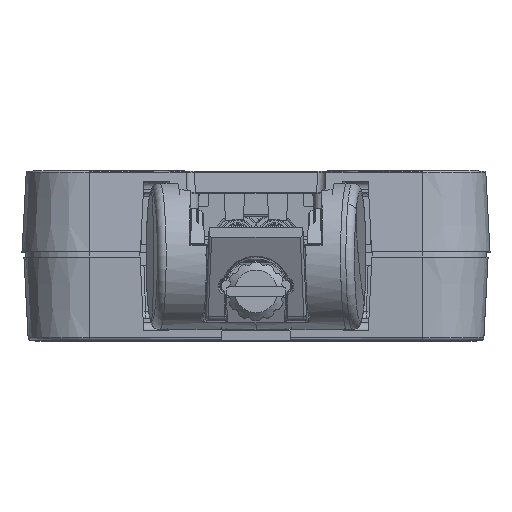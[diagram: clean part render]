
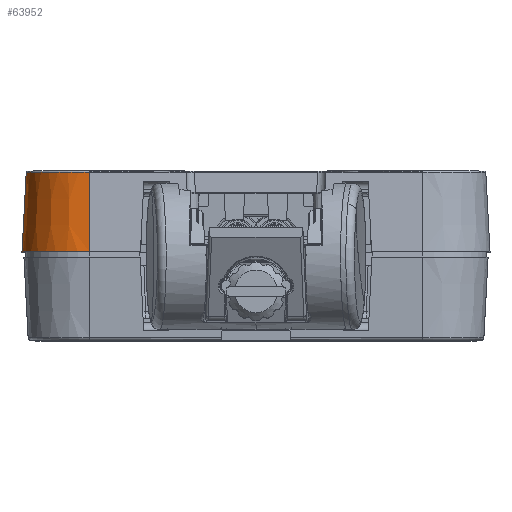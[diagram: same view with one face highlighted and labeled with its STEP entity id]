
A CAD part, top view. The second image highlights one B-rep face of the part: STEP entity #63952.
In plain terms, the highlighted conical face has half-angle 3 degrees and reference radius 6.23 mm.
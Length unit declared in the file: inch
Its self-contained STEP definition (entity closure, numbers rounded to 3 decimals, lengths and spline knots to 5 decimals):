
#48452=CARTESIAN_POINT('',(-0.625,0.44826,-0.22));
#48453=DIRECTION('',(0.,1.,0.));
#48454=DIRECTION('',(-1.,0.,0.));
#48455=AXIS2_PLACEMENT_3D('',#48452,#48453,#48454);
#48457=CARTESIAN_POINT('',(-0.625,0.15,-0.22));
#48458=DIRECTION('',(0.,1.,0.));
#48459=DIRECTION('',(-1.,0.,0.));
#48460=AXIS2_PLACEMENT_3D('',#48457,#48458,#48459);
#48462=DIRECTION('',(0.052,0.999,0.));
#48463=VECTOR('',#48462,0.29867);
#48464=CARTESIAN_POINT('',(-0.87809,0.15,-0.22));
#48465=LINE('',#48464,#48463);
#48504=DIRECTION('',(0.,0.999,-0.052));
#48505=VECTOR('',#48504,0.29867);
#48506=CARTESIAN_POINT('',(-0.625,0.15,0.03309));
#48507=LINE('',#48506,#48505);
#53271=CARTESIAN_POINT('',(-0.87809,0.15,-0.22));
#53272=CARTESIAN_POINT('',(-0.625,0.15,0.03309));
#53273=VERTEX_POINT('',#53271);
#53274=VERTEX_POINT('',#53272);
#54517=CARTESIAN_POINT('',(-0.625,0.44826,
0.01746));
#54519=VERTEX_POINT('',#54517);
#54527=CARTESIAN_POINT('',(-0.86246,0.44826,-0.22));
#54528=VERTEX_POINT('',#54527);
#63939=CARTESIAN_POINT('',(-0.625,0.29913,-0.22));
#63940=DIRECTION('',(0.,-1.,0.));
#63941=DIRECTION('',(-1.,0.,0.));
#63942=AXIS2_PLACEMENT_3D('',#63939,#63940,#63941);
#63943=CONICAL_SURFACE('',#63942,0.24528,3.);
#63945=ORIENTED_EDGE('',*,*,#63944,.T.);
#63947=ORIENTED_EDGE('',*,*,#63946,.F.);
#63948=ORIENTED_EDGE('',*,*,#62746,.F.);
#63949=ORIENTED_EDGE('',*,*,#63920,.T.);
#63950=EDGE_LOOP('',(#63945,#63947,#63948,#63949));
#63951=FACE_OUTER_BOUND('',#63950,.F.);
#63952=ADVANCED_FACE('',(#63951),#63943,.T.);
#48456=CIRCLE('',#48455,0.23746);
#48461=CIRCLE('',#48460,0.25309);
#62746=EDGE_CURVE('',#53273,#53274,#48461,.T.);
#63920=EDGE_CURVE('',#53273,#54528,#48465,.T.);
#63944=EDGE_CURVE('',#54528,#54519,#48456,.T.);
#63946=EDGE_CURVE('',#53274,#54519,#48507,.T.);
